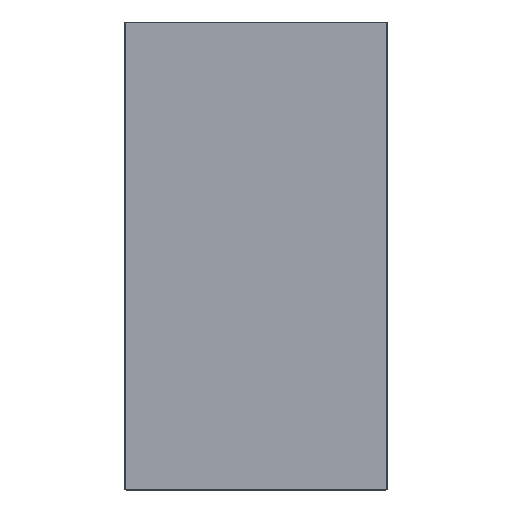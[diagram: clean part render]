
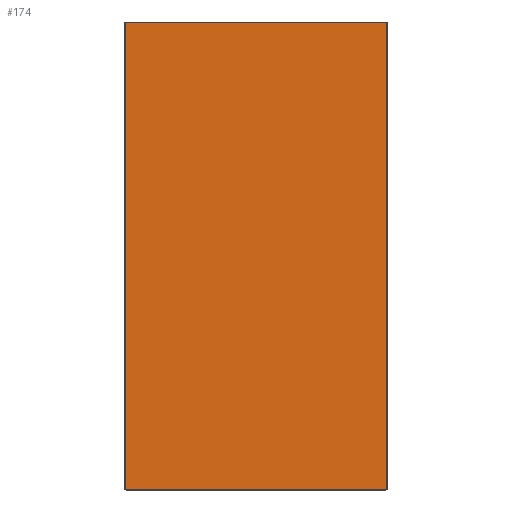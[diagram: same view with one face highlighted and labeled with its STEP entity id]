
A CAD part, top view. The second image highlights one B-rep face of the part: STEP entity #174.
In plain terms, the highlighted planar face has unit normal (0, 0, 1).
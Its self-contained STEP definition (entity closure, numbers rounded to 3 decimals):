
#106=AXIS2_PLACEMENT_3D('Plane Axis2P3D',#103,#104,#105) ;
#119=AXIS2_PLACEMENT_3D('Circle Axis2P3D',#117,#118,$) ;
#133=AXIS2_PLACEMENT_3D('Circle Axis2P3D',#131,#132,$) ;
#147=AXIS2_PLACEMENT_3D('Circle Axis2P3D',#145,#146,$) ;
#161=AXIS2_PLACEMENT_3D('Circle Axis2P3D',#159,#160,$) ;
#103=CARTESIAN_POINT('Axis2P3D Location',(0.,0.,4.)) ;
#108=CARTESIAN_POINT('Line Origine',(0.,-249.5,4.)) ;
#112=CARTESIAN_POINT('Vertex',(139.,-249.5,4.)) ;
#114=CARTESIAN_POINT('Vertex',(-139.,-249.5,4.)) ;
#117=CARTESIAN_POINT('Axis2P3D Location',(139.,-249.,4.)) ;
#121=CARTESIAN_POINT('Vertex',(139.5,-249.,4.)) ;
#124=CARTESIAN_POINT('Line Origine',(139.5,0.,4.)) ;
#128=CARTESIAN_POINT('Vertex',(139.5,249.,4.)) ;
#131=CARTESIAN_POINT('Axis2P3D Location',(139.,249.,4.)) ;
#135=CARTESIAN_POINT('Vertex',(139.,249.5,4.)) ;
#138=CARTESIAN_POINT('Line Origine',(0.,249.5,4.)) ;
#142=CARTESIAN_POINT('Vertex',(-139.,249.5,4.)) ;
#145=CARTESIAN_POINT('Axis2P3D Location',(-139.,249.,4.)) ;
#149=CARTESIAN_POINT('Vertex',(-139.5,249.,4.)) ;
#152=CARTESIAN_POINT('Line Origine',(-139.5,0.,4.)) ;
#156=CARTESIAN_POINT('Vertex',(-139.5,-249.,4.)) ;
#159=CARTESIAN_POINT('Axis2P3D Location',(-139.,-249.,4.)) ;
#104=DIRECTION('Axis2P3D Direction',(0.,0.,1.)) ;
#105=DIRECTION('Axis2P3D XDirection',(1.,0.,0.)) ;
#109=DIRECTION('Vector Direction',(-1.,0.,0.)) ;
#118=DIRECTION('Axis2P3D Direction',(0.,0.,1.)) ;
#125=DIRECTION('Vector Direction',(0.,1.,0.)) ;
#132=DIRECTION('Axis2P3D Direction',(0.,0.,1.)) ;
#139=DIRECTION('Vector Direction',(1.,0.,0.)) ;
#146=DIRECTION('Axis2P3D Direction',(0.,0.,1.)) ;
#153=DIRECTION('Vector Direction',(0.,-1.,0.)) ;
#160=DIRECTION('Axis2P3D Direction',(0.,0.,1.)) ;
#110=VECTOR('Line Direction',#109,1.) ;
#126=VECTOR('Line Direction',#125,1.) ;
#140=VECTOR('Line Direction',#139,1.) ;
#154=VECTOR('Line Direction',#153,1.) ;
#165=ORIENTED_EDGE('',*,*,#116,.F.) ;
#166=ORIENTED_EDGE('',*,*,#123,.T.) ;
#167=ORIENTED_EDGE('',*,*,#130,.T.) ;
#168=ORIENTED_EDGE('',*,*,#137,.T.) ;
#169=ORIENTED_EDGE('',*,*,#144,.F.) ;
#170=ORIENTED_EDGE('',*,*,#151,.T.) ;
#171=ORIENTED_EDGE('',*,*,#158,.T.) ;
#172=ORIENTED_EDGE('',*,*,#163,.T.) ;
#174=ADVANCED_FACE('Glas Kochfeld(fl\X2\00E4\X0\chenb\X2\00FC\X0\ndig)',(#173),#107,.T.) ;
#120=CIRCLE('generated circle',#119,0.5) ;
#134=CIRCLE('generated circle',#133,0.5) ;
#148=CIRCLE('generated circle',#147,0.5) ;
#162=CIRCLE('generated circle',#161,0.5) ;
#116=EDGE_CURVE('',#113,#115,#111,.T.) ;
#123=EDGE_CURVE('',#113,#122,#120,.T.) ;
#130=EDGE_CURVE('',#122,#129,#127,.T.) ;
#137=EDGE_CURVE('',#129,#136,#134,.T.) ;
#144=EDGE_CURVE('',#143,#136,#141,.T.) ;
#151=EDGE_CURVE('',#143,#150,#148,.T.) ;
#158=EDGE_CURVE('',#150,#157,#155,.T.) ;
#163=EDGE_CURVE('',#157,#115,#162,.T.) ;
#164=EDGE_LOOP('',(#165,#166,#167,#168,#169,#170,#171,#172)) ;
#173=FACE_OUTER_BOUND('',#164,.T.) ;
#111=LINE('Line',#108,#110) ;
#127=LINE('Line',#124,#126) ;
#141=LINE('Line',#138,#140) ;
#155=LINE('Line',#152,#154) ;
#107=PLANE('',#106) ;
#113=VERTEX_POINT('',#112) ;
#115=VERTEX_POINT('',#114) ;
#122=VERTEX_POINT('',#121) ;
#129=VERTEX_POINT('',#128) ;
#136=VERTEX_POINT('',#135) ;
#143=VERTEX_POINT('',#142) ;
#150=VERTEX_POINT('',#149) ;
#157=VERTEX_POINT('',#156) ;
